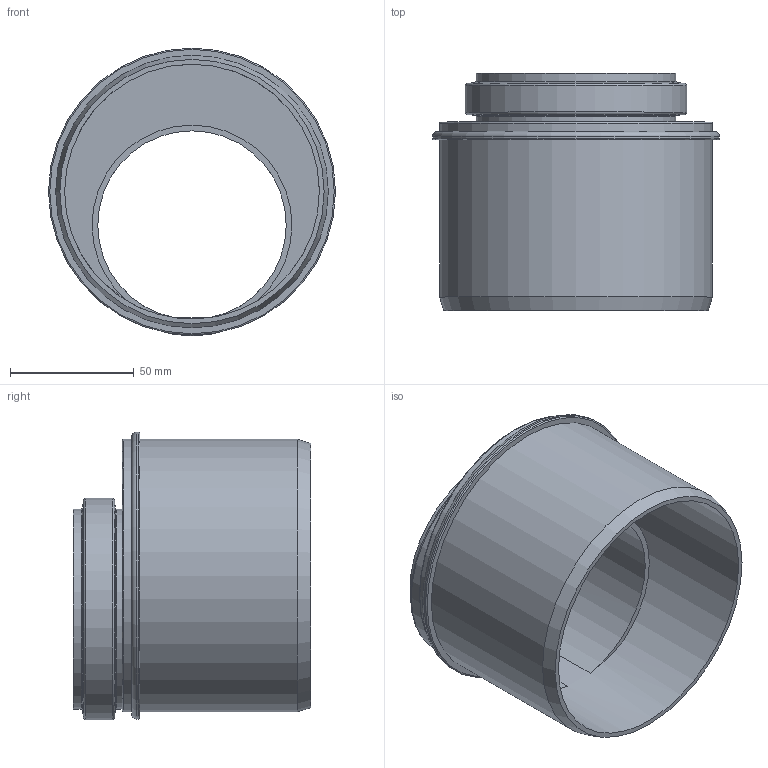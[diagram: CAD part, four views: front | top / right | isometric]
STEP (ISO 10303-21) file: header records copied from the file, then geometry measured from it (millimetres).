
FILE_DESCRIPTION(/* description */ (''),/* implementation_level */ '2;1');
FILE_NAME(/* name */ 'Z:\Geberit\Export\Export15\Reduktion PP-MD_Ipart\stp\390576.stp',/* time_stamp */ '2014-04-27T21:13:28+02:00',/* author */ ('Bründl'),/* organization */ (''),/* preprocessor_version */ 'ST-DEVELOPER v15.2',/* originating_system */ 'Autodesk Inventor 2014',/* authorisation */ '');
FILE_SCHEMA (('AUTOMOTIVE_DESIGN { 1 0 10303 214 3 1 1 }'));
Length unit declared in the file: millimetre
Products named in the file (1): 390576
Bounding box: 116 x 96 x 116.35 mm (x, y, z)
Volume: 150789.3 mm3; surface area: 86620.4 mm2
Topology: 1 solids, 1 shells, 35 faces, 71 edges, 41 vertices
Faces by surface type: torus 11, cylinder 11, plane 8, cone 5
Full cylindrical faces by diameter (mm): 76.2 x2, 80.8 x2, 85 x1, 89.6 x1, 103 x1, 110.2 x2, 116 x1
Entity records: 814 total; most frequent: DIRECTION 152, CARTESIAN_POINT 116, ORIENTED_EDGE 84, AXIS2_PLACEMENT_3D 74, EDGE_LOOP 66, EDGE_CURVE 42, CIRCLE 38, VERTEX_POINT 38
